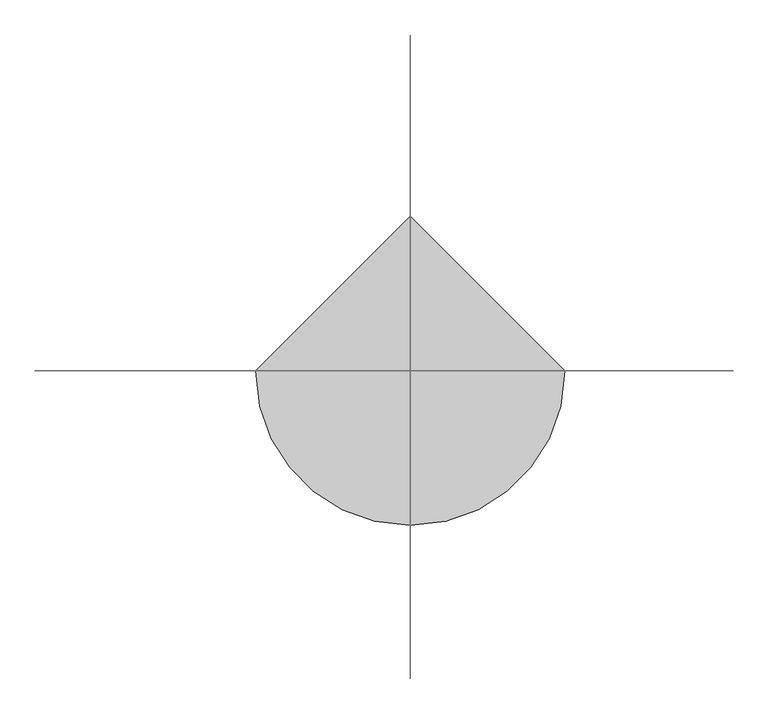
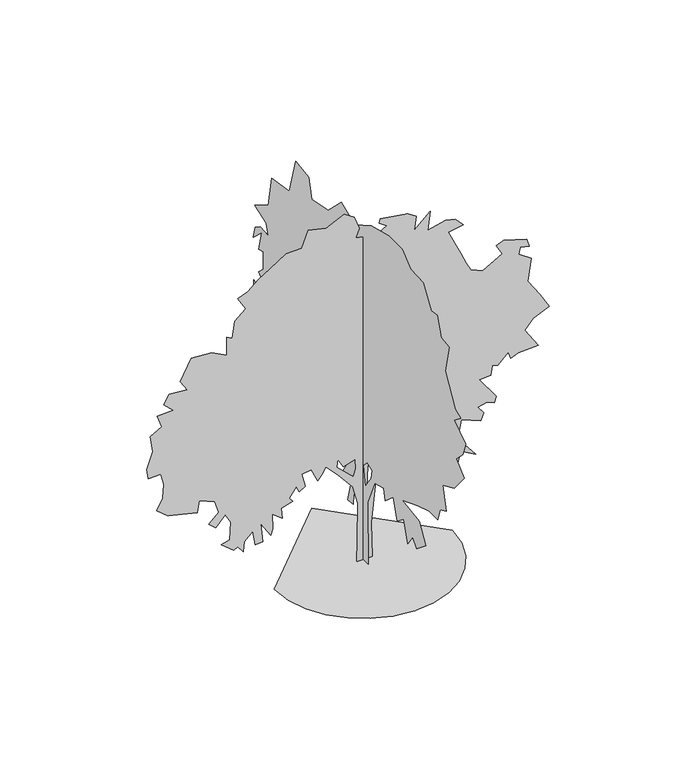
"""IFC4 building model written with IfcOpenShell, lengths in millimetres: geographic element geometry, RPC Árvore - Tropical : Árvore menor - 3 metros."""

from ifc_helpers import new_model, si_unit, origin, place, context, project, spatial, triangles, source, transform, mapped, element, save


def geographic_element_0cbc9d03(model_context):
    return source(origin(), model_context, "Body", "Tessellation", [
        triangles([(-719.160391, 0.0, 5.41e-05), (-700.1422205, -164.8289107, 5.41e-05), (-645.9808462, -316.1978145, 5.41e-05), (-561.0125951, -449.7705843, 5.41e-05), (-449.573903, -561.2092764, 5.41e-05), (-316.0011332, -646.1774912, 5.41e-05), (-164.6320295, -700.3388655, 5.41e-05), (0.1967025, -719.357036, 5.41e-05), (165.0255738, -700.3388655, 5.41e-05), (316.3944958, -646.1774912, 5.41e-05), (449.9672656, -561.2092764, 5.41e-05), (561.4059577, -449.7705843, 5.41e-05), (646.3741362, -316.1978145, 5.41e-05), (700.5355104, -164.8286927, 5.41e-05), (719.553681, 6.29e-05, 5.41e-05), (0.1965767, 719.357036, 5.41e-05), (0.1966288, -68.9838843, 4.3e-05), (0.1966447, -65.1004776, 526.979716), (0.1966469, -162.1893734, 748.341168), (0.1966424, -286.4637282, 783.2934677), (0.1966386, -309.7637232, 690.0888371), (0.1966364, -422.3887891, 787.177533), (0.1966289, -476.7569821, 616.3001724), (0.196627, -566.0797276, 686.2047718), (0.1966194, -620.4502098, 511.4456351), (0.1966191, -694.2366217, 612.4183599), (0.1966147, -744.7230022, 542.5137969), (0.1966121, -876.7639252, 651.2524721), (0.1966208, -783.5593672, 802.7116138), (0.1966324, -546.6615452, 837.6639135), (0.1966253, -760.2570831, 919.2184559), (0.1966196, -923.3662405, 973.5889744), (0.1966142, -1043.7571478, 973.5889744), (0.1966158, -1074.8253822, 1074.5617355), (0.1966132, -1160.2639898, 1113.3958477), (0.1966211, -1113.6617472, 1307.5754196), (0.1966161, -1272.8868393, 1381.3617588), (0.1966149, -1412.6958927, 1548.3550541), (0.1966229, -1300.0709358, 1649.3278152), (0.1966214, -1389.3936813, 1734.7664955), (0.196623, -1432.1118587, 1851.2733376), (0.1966334, -1269.0026287, 1956.1279839), (0.1966314, -1366.0913246, 2033.7983883), (0.1966357, -1288.4209202, 2060.9848103), (0.1966494, -1144.7299089, 2305.6598465), (0.1966538, -1202.9822399, 2538.6598686), (0.1966591, -1090.3594631, 2550.3190407), (0.1966663, -1035.9889446, 2709.5462402), (0.1966698, -950.5525898, 2697.8873589), (0.1966797, -841.8116255, 2868.7737305), (0.1966879, -663.1683872, 2876.5235481), (0.1966962, -542.7774436, 2973.6147148), (0.1967047, -356.3660385, 2977.5011055), (0.1967138, -111.7029928, 2915.3644913), (0.1967201, 121.3104914, 2779.4326721), (0.1967307, 303.8387396, 2861.0009491), (0.1967336, 486.3638085, 2682.3644691), (0.1967425, 715.4957165, 2639.6371353), (0.1967492, 758.2138939, 2798.8646255), (0.1967581, 940.7411974, 2826.0463966), (0.1967529, 1030.0639429, 2515.3644882), (0.1967628, 1278.6094551, 2476.5235451), (0.1967573, 1329.0959084, 2216.3257645), (0.1967621, 1511.6232845, 2103.7029877), (0.1967535, 1356.2823303, 2045.4507294), (0.1967494, 1325.2140232, 1956.1279839), (0.1967548, 1437.8368, 1967.7801796), (0.1967564, 1507.7413994, 1917.2938717), (0.1967546, 1534.9254959, 1816.3211105), (0.1967526, 1414.5345886, 1928.943742), (0.1967496, 1461.1368313, 1758.0665268), (0.1967472, 1395.1162971, 1777.4846729), (0.1967429, 1399.0005077, 1626.0256039), (0.1967439, 1461.1368313, 1567.7732002), (0.1967368, 1364.0481354, 1474.5663895), (0.1967371, 1418.4186539, 1404.6641155), (0.1967438, 1531.0414307, 1459.0323086), (0.1967408, 1538.8095612, 1346.4095318), (0.1967352, 1472.7891724, 1257.0891117), (0.196738, 1546.5755116, 1241.5548855), (0.1967361, 1562.1095924, 1156.1162779), (0.1967336, 1476.6732376, 1198.8344553), (0.1967257, 1305.7958771, 1191.0685776), (0.1967268, 1457.2550915, 1000.7730709), (0.1967231, 1360.1663956, 1020.191217), (0.1967246, 1441.7208652, 950.2866903), (0.1967246, 1519.391415, 833.7798483), (0.1967227, 1465.0208965, 849.3139292), (0.1967168, 1410.6527035, 732.8070871), (0.1967188, 1406.7686382, 806.5957518), (0.1967147, 1298.0277466, 833.7798483), (0.1967116, 1255.3095692, 791.0615982), (0.1967111, 1146.5708576, 938.6366747), (0.1967061, 1131.0344513, 794.9457361), (0.1967043, 1068.8980551, 826.0138979), (0.1967037, 998.9935284, 911.4525782), (0.1966978, 894.1389547, 872.6162132), (0.1966939, 855.3025171, 798.8275486), (0.1966902, 863.0707203, 662.9047405), (0.1966854, 781.5161779, 624.0683756), (0.1966854, 820.3502901, 565.8138282), (0.1966834, 839.7684362, 468.7251686), (0.1966779, 665.0093359, 546.3978985), (0.1966767, 587.3365697, 624.0683756), (0.1966731, 544.6183559, 565.8138282), (0.1966758, 517.4342594, 697.8547874), (0.1966719, 466.9478788, 643.4865944), (0.1966705, 408.6933314, 682.3207066), (0.1966721, 416.4614983, 725.0411367), (0.1966693, 354.325102, 725.0411367), (0.1966646, 299.9546381, 647.3706596), (0.1966657, 261.1182731, 744.4593555), (0.1966621, 230.050075, 670.6706909), (0.1966619, 284.420539, 581.3501982), (0.1966557, 109.6600398, 635.7183912), (0.1966555, 171.796872, 534.7456301), (0.1966529, 218.3993872, 379.4046759), (0.1966497, 140.7284559, 387.1705899), (0.1966517, 129.077768, 472.6092339), (0.1966508, 82.4750258, 511.4456351), (0.1966489, 39.7559218, 511.4456351), (0.1966439, 35.8722835, 348.3364778), (0.1966343, 55.2902434, 4.67e-05), (0.1966511, -123.3539078, 829.8957104), (0.1966495, -111.7032199, 759.9934364), (0.1966497, -30.1486458, 643.4865944), (0.1966558, -2.9635918, 806.5957518), (0.196655, -57.3334281, 860.9661976), (52.7432786, 2.41e-05, 823.818465), (35.026682, 2.71e-05, 785.4343254), (29.1209968, 3.78e-05, 611.220686), (40.93214, 4.02e-05, 561.0229142), (70.4594211, 3.21e-05, 676.1820551), (94.0817029, 2.44e-05, 788.3866161), (-50.6033429, 7.77e-05, 0.0), (-47.6503891, 6.66e-05, 183.0709658), (-44.6976623, 4.78e-05, 496.0637979), (-83.0835824, 4.04e-05, 649.6070057), (-201.1940784, 3.73e-05, 788.3866161), (-301.5875326, 3.51e-05, 897.6389591), (-325.2102367, 3.9e-05, 850.3934418), (-366.5488835, 4.38e-05, 800.1979591), (-416.7443662, 3.93e-05, 912.4025928), (-493.5171146, 4.34e-05, 900.5911772), (-466.9421016, 4.89e-05, 788.3866161), (-514.1852935, 5.27e-05, 758.8593487), (-540.7603065, 5.07e-05, 812.0070494), (-596.8625871, 5.79e-05, 732.2842993), (-567.3353196, 5.87e-05, 696.8501976), (-661.8239925, 6.44e-05, 670.2752209), (-652.9649403, 6.95e-05, 578.7410914), (-732.6899431, 6.93e-05, 640.7479534), (-729.7376524, 7.64e-05, 519.6842674), (-744.5013588, 8e-05, 469.4887848), (-827.1786524, 7.62e-05, 593.5047252), (-809.4627279, 8.48e-05, 437.0069738), (-868.5172628, 8.77e-05, 431.1024287), (-892.1400215, 8.15e-05, 552.1660784), (-957.0991379, 8.83e-05, 487.2047092), (-965.9581902, 9.36e-05, 404.5274157), (-1010.249164, 9.2e-05, 463.5819869), (-1042.730975, 9.46e-05, 442.9137717), (-1146.0764837, 9.41e-05, 528.543356), (-1075.2105331, 8.99e-05, 546.2592805), (-1069.3036989, 8.1e-05, 690.9456888), (-1110.642382, 7.81e-05, 770.6684389), (-1187.4150942, 8.64e-05, 687.9933981), (-1243.517411, 8.6e-05, 735.23659), (-1163.7924082, 7.79e-05, 812.0070494), (-1196.2718937, 7.34e-05, 912.4025928), (-1323.2424866, 7.59e-05, 962.5980755), (-1338.0061203, 8.22e-05, 868.111619), (-1574.2265854, 8.92e-05, 924.2139359), (-1662.8083878, 8.87e-05, 998.0321772), (-1615.5651958, 8.11e-05, 1089.5662703), (-1609.6584343, 7.38e-05, 1207.6776655), (-1633.2811203, 6.94e-05, 1299.2118313), (-1733.674411, 7.4e-05, 1296.2595406), (-1745.485754, 6.96e-05, 1378.9367615), (-1695.2879459, 5.93e-05, 1514.7640812), (-1715.9584866, 5.23e-05, 1647.6391102), (-1624.422068, 4.51e-05, 1700.7868835), (-1659.8562424, 4.05e-05, 1804.1346451), (-1532.8879749, 3.46e-05, 1810.0392265), (-1609.6584343, 3.35e-05, 1883.8597206), (-1562.4152424, 2.72e-05, 1954.7255985), (-1417.7288704, 2.15e-05, 1945.8665462), (-1476.7855854, 1.88e-05, 2034.4483486), (-1385.2493122, 4.9e-06, 2199.8029358), (-1222.8468704, -1.7e-06, 2190.946209), (-1098.8309664, -3.2e-06, 2125.9847672), (-1098.8309664, -1.24e-05, 2279.5235058), (-1054.5400652, -1.29e-05, 2255.9053253), (-1036.8241407, -2.2e-05, 2394.6826103), (-945.2877222, -3.04e-05, 2468.500779), (-1013.2013821, -3.39e-05, 2577.7507965), (-930.5240885, -3.94e-05, 2610.2281746), (-841.9422861, -4.77e-05, 2684.0463432), (-747.4535769, -5.54e-05, 2743.1145401), (-620.4853821, -6.58e-05, 2825.7964119), (-496.4694054, -7.14e-05, 2828.7508827), (-443.3193792, -8.17e-05, 2961.6145752), (-298.63526, -8.61e-05, 2929.1371971), (-153.9492877, -9.66e-05, 3000.0008949), (-71.2722167, -9.69e-05, 2943.8874596), (-32.8865237, -9.21e-05, 2834.6371513), (-59.4613006, -8.68e-05, 2766.728215), (102.9403464, -9.17e-05, 2728.3418953), (191.5230844, -9.85e-05, 2778.546389), (129.5151232, -9.85e-05, 2822.8419411), (138.3735397, -0.000101, 2858.27379), (359.830907, -0.0001085, 2822.8419411), (427.7445668, -0.0001087, 2775.5919182), (412.9808968, -0.0001013, 2663.3871391), (542.9014186, -0.0001141, 2781.5008598), (519.2786599, -0.0001037, 2625.0008194), (666.9172863, -0.0001123, 2660.4326683), (740.7355276, -0.0001144, 2642.7282257), (805.6968967, -0.000113, 2571.8418549), (687.5855015, -0.0001065, 2548.2281799), (785.0264288, -9.81e-05, 2335.6370865), (832.2719461, -9.41e-05, 2235.2371101), (867.7037224, -9.16e-05, 2167.3233776), (965.1447224, -9.33e-05, 2123.0324764), (1121.6424374, -0.0001056, 2214.5665695), (1071.444702, -0.0001085, 2300.2052376), (1133.4515276, -0.0001128, 2326.7735287), (1319.4765827, -0.0001174, 2267.7166683), (1340.1447979, -0.0001144, 2202.757552), (1266.3266293, -0.0001121, 2217.5211857), (1254.5152863, -0.0001084, 2164.3712322), (1354.9084316, -0.0001085, 2093.505209), (1325.3811642, -9.62e-05, 1907.4802265), (1425.7744549, -9.19e-05, 1762.7960346), (1502.5470943, -8.75e-05, 1632.8754765), (1369.6720654, -7.84e-05, 1576.7709068), (1304.712949, -7.08e-05, 1497.0481567), (1411.0106758, -6.58e-05, 1334.6458603), (1251.5629955, -5.83e-05, 1325.786808), (1189.5538445, -5.4e-05, 1299.2118313), (1171.83792, -5.65e-05, 1355.3164009), (1086.2083357, -4.82e-05, 1278.5436161), (1038.9651438, -4.69e-05, 1290.3549591), (1030.1060915, -4.17e-05, 1210.6299562), (935.6173822, -3.74e-05, 1207.6776655), (1071.444702, -3.21e-05, 1018.7003197), (1056.6810682, -2.83e-05, 965.552619), (997.6265333, -2.73e-05, 992.1253429), (923.8060392, -2.3e-05, 974.4094185), (971.0514839, -2.14e-05, 912.4025928), (947.4287979, -1.66e-05, 850.3934418), (790.933263, -1.37e-05, 915.3548109), (764.3582863, -3.4e-06, 761.8116394), (906.0901148, 1.2e-06, 581.6933822), (785.0264288, 2.4e-06, 649.6070057), (743.6878183, 1.46e-05, 475.3933299), (717.1127689, 9.3e-06, 584.6456366), (666.9172863, 7.8e-06, 646.6547876), (575.3809768, 1.42e-05, 605.3161045), (525.1854941, 2.21e-05, 510.8274316), (436.6013663, 1.92e-05, 623.032029), (350.971782, 1.58e-05, 744.095715), (312.5854259, 2.22e-05, 664.3706394), (283.0581222, 1.57e-05, 794.2911976), (167.9010342, 2.41e-05, 738.1888807), (102.9403464, 3.33e-05, 631.8888285), (64.5544218, 5.5e-05, 295.2750908), (73.4126065, 7.23e-05, 9.55e-05), (-159.8554316, 3.19e-05, 847.441151), (-204.1468051, 2.91e-05, 927.1662266), (-213.0050035, 3.34e-05, 862.2048574), (-80.1308556, 3.53e-05, 732.2842993), (-59.4615277, 3.07e-05, 794.2911976), (-65.3669857, 2.6e-05, 876.9684912)], [[15, 16, 1], [14, 15, 1], [14, 1, 2], [13, 14, 2], [13, 2, 3], [13, 3, 4], [12, 13, 4], [11, 12, 4], [11, 4, 5], [11, 5, 6], [11, 6, 7], [11, 7, 8], [11, 8, 9], [11, 9, 10], [126, 17, 18], [88, 89, 90], [68, 69, 70], [67, 68, 70], [83, 84, 85], [86, 87, 88], [126, 18, 19], [125, 126, 19], [113, 114, 115], [104, 105, 106], [63, 64, 65], [80, 81, 82], [79, 80, 82], [66, 67, 70], [24, 25, 26], [101, 102, 103], [110, 111, 112], [42, 43, 44], [70, 71, 72], [20, 21, 22], [100, 101, 103], [116, 117, 118], [116, 118, 119], [76, 77, 78], [22, 23, 24], [93, 94, 95], [93, 95, 96], [76, 78, 79], [91, 92, 93], [45, 46, 47], [116, 119, 120], [115, 116, 120], [26, 27, 28], [26, 28, 29], [26, 29, 30], [24, 26, 30], [22, 24, 30], [123, 17, 126], [122, 123, 126], [121, 122, 126], [73, 74, 75], [79, 82, 83], [76, 79, 83], [37, 38, 39], [124, 125, 19], [59, 60, 61], [58, 59, 61], [106, 107, 108], [106, 108, 109], [66, 70, 72], [124, 19, 20], [34, 35, 36], [47, 48, 49], [100, 103, 104], [115, 120, 121], [115, 121, 126], [115, 126, 127], [40, 41, 42], [39, 40, 42], [32, 33, 34], [113, 115, 127], [112, 113, 127], [61, 62, 63], [55, 56, 57], [98, 99, 100], [98, 100, 104], [98, 104, 106], [86, 88, 90], [86, 90, 91], [85, 86, 91], [85, 91, 93], [83, 85, 93], [75, 76, 83], [36, 37, 39], [49, 50, 51], [83, 93, 96], [32, 34, 36], [97, 98, 106], [31, 32, 36], [42, 44, 45], [97, 106, 109], [51, 52, 53], [75, 83, 96], [75, 96, 97], [61, 63, 65], [61, 65, 66], [58, 61, 66], [57, 58, 66], [75, 97, 109], [73, 75, 109], [72, 73, 109], [66, 72, 109], [57, 66, 109], [57, 109, 110], [57, 110, 112], [57, 112, 127], [57, 127, 128], [55, 57, 128], [54, 55, 128], [53, 54, 128], [51, 53, 128], [49, 51, 128], [47, 49, 128], [45, 47, 128], [42, 45, 128], [39, 42, 128], [36, 39, 128], [31, 36, 128], [30, 31, 128], [30, 128, 124], [30, 124, 20], [30, 20, 22], [135, 130, 131], [130, 135, 136], [130, 136, 137], [135, 131, 132], [253, 254, 255], [255, 256, 257], [130, 137, 138], [272, 129, 130], [272, 130, 138], [129, 272, 273], [262, 263, 264], [214, 215, 216], [272, 138, 139], [271, 272, 139], [271, 139, 140], [159, 160, 161], [150, 151, 152], [153, 154, 155], [152, 153, 155], [162, 163, 164], [218, 219, 220], [237, 238, 239], [228, 229, 230], [227, 228, 230], [191, 192, 193], [141, 142, 143], [148, 149, 150], [259, 260, 261], [182, 183, 184], [217, 218, 220], [161, 162, 164], [270, 271, 140], [129, 273, 274], [195, 196, 197], [268, 135, 132], [267, 268, 132], [266, 267, 132], [266, 132, 133], [265, 266, 133], [265, 133, 134], [246, 247, 248], [245, 246, 248], [234, 235, 236], [140, 141, 143], [225, 226, 227], [225, 227, 230], [225, 230, 231], [167, 168, 169], [166, 167, 169], [239, 240, 241], [145, 146, 147], [144, 145, 147], [255, 257, 258], [253, 255, 258], [171, 172, 173], [237, 239, 241], [216, 217, 220], [245, 248, 249], [250, 251, 252], [249, 250, 252], [155, 156, 157], [155, 157, 158], [210, 211, 212], [209, 210, 212], [177, 178, 179], [243, 244, 245], [201, 202, 203], [184, 185, 186], [184, 186, 187], [274, 269, 270], [173, 174, 175], [171, 173, 175], [159, 161, 164], [177, 179, 180], [158, 159, 164], [158, 164, 165], [155, 158, 165], [171, 175, 176], [180, 181, 182], [188, 189, 190], [187, 188, 190], [187, 190, 191], [231, 232, 233], [245, 249, 252], [212, 213, 214], [209, 212, 214], [203, 204, 205], [203, 205, 206], [203, 206, 207], [201, 203, 207], [264, 265, 134], [208, 209, 214], [241, 242, 243], [225, 231, 233], [224, 225, 233], [233, 234, 236], [224, 233, 236], [224, 236, 237], [224, 237, 241], [224, 241, 243], [223, 224, 243], [223, 243, 245], [152, 155, 165], [152, 165, 166], [259, 261, 262], [258, 259, 262], [253, 258, 262], [252, 253, 262], [252, 262, 264], [245, 252, 264], [223, 245, 264], [223, 264, 134], [223, 134, 129], [223, 129, 274], [223, 274, 270], [222, 223, 270], [221, 222, 270], [220, 221, 270], [216, 220, 270], [214, 216, 270], [208, 214, 270], [207, 208, 270], [201, 207, 270], [200, 201, 270], [199, 200, 270], [198, 199, 270], [197, 198, 270], [195, 197, 270], [194, 195, 270], [193, 194, 270], [191, 193, 270], [191, 270, 140], [191, 140, 143], [191, 143, 144], [187, 191, 144], [184, 187, 144], [182, 184, 144], [180, 182, 144], [177, 180, 144], [176, 177, 144], [171, 176, 144], [170, 171, 144], [170, 144, 147], [169, 170, 147], [166, 169, 147], [152, 166, 147], [152, 147, 148], [152, 148, 150]], closed=False),
    ])


if __name__ == "__main__":
    model = new_model("IFC4")
    model_context = context("Model", 3, world=origin())
    ifc_project = project(units=[si_unit("LENGTHUNIT", "METRE", prefix="MILLI")], contexts=[model_context])
    site = spatial("IfcSite", under=ifc_project)
    building = spatial("IfcBuilding", under=site)
    placement = place(None, origin())
    geographic_element_shape = geographic_element_0cbc9d03(model_context)
    element("IfcGeographicElement", 1, ObjectType="RPC Árvore - Tropical : Árvore menor - 3 metros", at=placement, inside=building, context=model_context, shape_type="MappedRepresentation", body=[
        mapped(geographic_element_shape, transform((0.0, 0.0, 0.0), x_axis=(1.0, 0.0, 0.0), y_axis=(0.0, 1.0, 0.0), z_axis=(0.0, 0.0, 1.0))),
    ])
    save(model, "model.ifc")
